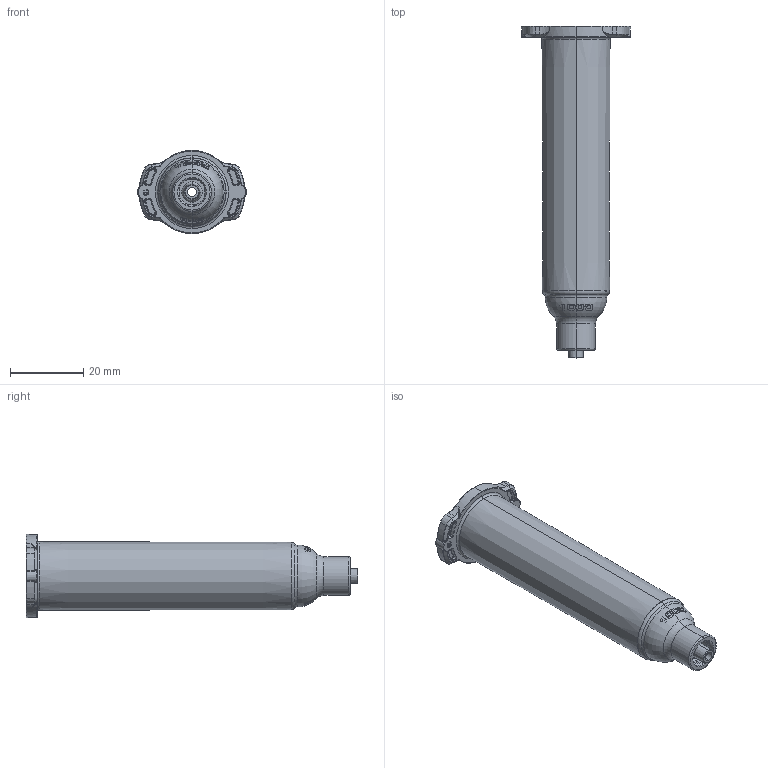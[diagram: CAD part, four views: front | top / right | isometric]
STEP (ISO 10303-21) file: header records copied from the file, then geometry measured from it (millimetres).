
FILE_DESCRIPTION (( 'STEP AP214' ), '1' );
FILE_NAME ('NORDSONEFD-7012008 BARREL O 10CC AM.STEP', '2019-05-21T03:09:41', ( '' ), ( '' ), 'SwSTEP 2.0', 'SolidWorks 2019', '' );
FILE_SCHEMA (( 'AUTOMOTIVE_DESIGN' ));
Length unit declared in the file: inch
Products named in the file (1): NORDSONEFD-7012008 BARREL O 10CC AM
Bounding box: 29.85 x 90.75 x 22.73 mm (x, y, z)
Volume: 7102.5 mm3; surface area: 9946.6 mm2
Topology: 1 solids, 1 shells, 555 faces, 1387 edges, 853 vertices
Faces by surface type: bspline 207, plane 147, torus 106, cylinder 52, cone 43
Entity records: 22611 total; most frequent: CARTESIAN_POINT 10986, ORIENTED_EDGE 2766, DIRECTION 1876, EDGE_CURVE 1383, VERTEX_POINT 853, AXIS2_PLACEMENT_3D 716, EDGE_LOOP 580, FACE_OUTER_BOUND 555
